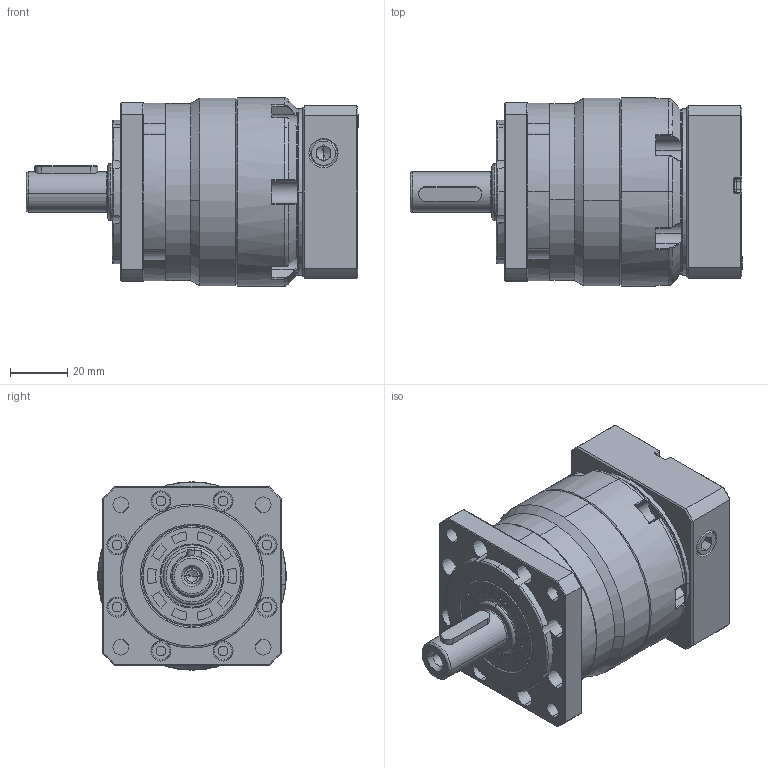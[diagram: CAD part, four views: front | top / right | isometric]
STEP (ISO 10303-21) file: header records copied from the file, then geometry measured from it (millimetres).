
FILE_DESCRIPTION (( 'STEP AP214' ), '1' );
FILE_NAME ('FB060-L1-S2-P2 14-50-70-M4.STEP', '2021-04-23T06:49:29', ( 'Microsoft' ), ( 'Microsoft China' ), 'SwSTEP 2.0', 'SolidWorks 2016', '' );
FILE_SCHEMA (( 'AUTOMOTIVE_DESIGN' ));
Length unit declared in the file: millimetre
Products named in the file (11): 11-输入法兰FB060D-50-70-M4.; 3-输入端壳体FB064D; 坶踡遠18-37-12(1); A倰す瑩5-22; 蚐猾20355; FB060-L1-S2-P2 14-50-70-M4; hex socket set screws with cone point gb_GB_FASTENER_SCREWS_HSCP M10X8-N; FB060D怀堤俴陎殤-14粣; 输入太阳齿轮060D-14; FB060齿圈; 8-怀堤傷褲极FB060
Assembly tree (10 placements, depth 2):
  FB060-L1-S2-P2 14-50-70-M4
    蚐猾20355
    A倰す瑩5-22
    坶踡遠18-37-12(1)
    3-输入端壳体FB064D
    11-输入法兰FB060D-50-70-M4.
    8-怀堤傷褲极FB060
    FB060齿圈
    输入太阳齿轮060D-14
    FB060D怀堤俴陎殤-14粣
    hex socket set screws with cone point gb_GB_FASTENER_SCREWS_HSCP M10X8-N
Bounding box: 115.5 x 65.5 x 65.5 mm (x, y, z)
Volume: 246503.5 mm3; surface area: 71328.2 mm2
Topology: 11 solids, 12 shells, 1324 faces, 3387 edges, 2120 vertices
Faces by surface type: plane 461, cylinder 312, bspline 215, cone 185, torus 151
Entity records: 64448 total; most frequent: CARTESIAN_POINT 18503, ORIENTED_EDGE 6706, DIRECTION 6082, EDGE_CURVE 3353, AXIS2_PLACEMENT_3D 2253, VERTEX_POINT 2120, LINE 1576, VECTOR 1576
